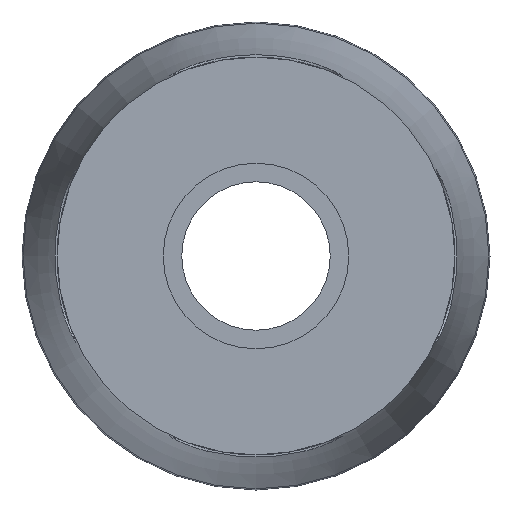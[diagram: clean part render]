
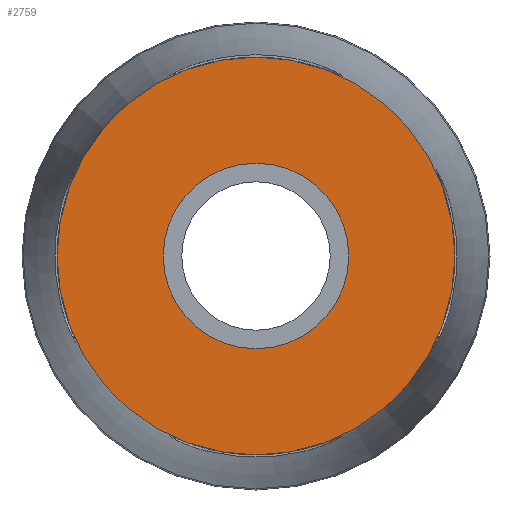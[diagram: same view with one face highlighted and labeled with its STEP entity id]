
A CAD part, left-side view. The second image highlights one B-rep face of the part: STEP entity #2759.
In plain terms, the highlighted planar face has unit normal (-1, 0, 0).
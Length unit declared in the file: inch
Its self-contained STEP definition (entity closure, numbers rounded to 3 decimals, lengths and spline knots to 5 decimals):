
#38=FACE_BOUND('',#734,.T.);
#121=PLANE('',#3102);
#569=FACE_OUTER_BOUND('',#733,.T.);
#733=EDGE_LOOP('',(#2366,#2367));
#734=EDGE_LOOP('',(#2368,#2369));
#909=CIRCLE('',#3100,0.36675);
#910=CIRCLE('',#3101,0.36675);
#911=CIRCLE('',#3103,0.78625);
#912=CIRCLE('',#3104,0.78625);
#1225=VERTEX_POINT('',#5626);
#1226=VERTEX_POINT('',#5628);
#1227=VERTEX_POINT('',#5632);
#1228=VERTEX_POINT('',#5633);
#1612=EDGE_CURVE('',#1226,#1225,#909,.T.);
#1613=EDGE_CURVE('',#1225,#1226,#910,.T.);
#1614=EDGE_CURVE('',#1227,#1228,#911,.T.);
#1615=EDGE_CURVE('',#1228,#1227,#912,.T.);
#2366=ORIENTED_EDGE('',*,*,#1614,.F.);
#2367=ORIENTED_EDGE('',*,*,#1615,.F.);
#2368=ORIENTED_EDGE('',*,*,#1612,.T.);
#2369=ORIENTED_EDGE('',*,*,#1613,.T.);
#2759=ADVANCED_FACE('',(#569,#38),#121,.T.);
#3100=AXIS2_PLACEMENT_3D('',#5629,#3892,#3893);
#3101=AXIS2_PLACEMENT_3D('',#5630,#3894,#3895);
#3102=AXIS2_PLACEMENT_3D('',#5631,#3896,#3897);
#3103=AXIS2_PLACEMENT_3D('',#5634,#3898,#3899);
#3104=AXIS2_PLACEMENT_3D('',#5635,#3900,#3901);
#3892=DIRECTION('center_axis',(1.,0.,0.));
#3893=DIRECTION('ref_axis',(0.,0.,-1.));
#3894=DIRECTION('center_axis',(1.,0.,0.));
#3895=DIRECTION('ref_axis',(0.,0.,-1.));
#3896=DIRECTION('center_axis',(-1.,0.,0.));
#3897=DIRECTION('ref_axis',(0.,0.,1.));
#3898=DIRECTION('center_axis',(1.,0.,0.));
#3899=DIRECTION('ref_axis',(0.,0.,-1.));
#3900=DIRECTION('center_axis',(1.,0.,0.));
#3901=DIRECTION('ref_axis',(0.,0.,-1.));
#5626=CARTESIAN_POINT('',(-1.15,-0.36675,0.));
#5628=CARTESIAN_POINT('',(-1.15,0.36675,0.));
#5629=CARTESIAN_POINT('Origin',(-1.15,0.,0.));
#5630=CARTESIAN_POINT('Origin',(-1.15,0.,0.));
#5631=CARTESIAN_POINT('Origin',(-1.15,0.78625,0.));
#5632=CARTESIAN_POINT('',(-1.15,0.78625,0.));
#5633=CARTESIAN_POINT('',(-1.15,-0.78625,0.));
#5634=CARTESIAN_POINT('Origin',(-1.15,0.,0.));
#5635=CARTESIAN_POINT('Origin',(-1.15,0.,0.));
